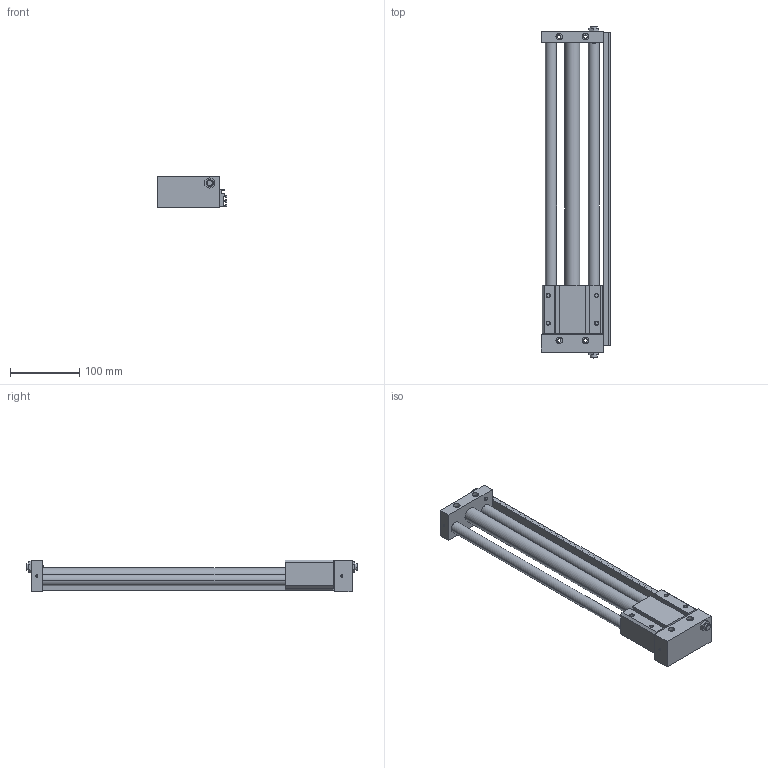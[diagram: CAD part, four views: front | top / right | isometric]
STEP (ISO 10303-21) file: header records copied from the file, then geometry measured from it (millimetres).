
FILE_DESCRIPTION((''),'2;1');
FILE_NAME('C:\Documents and Settings\Administrator\桌面\GYS\GYS20\GYSR20X350.stp','2012-03-06T20:21:47',('Administrator'),(''),'Autodesk Inventor 8','Autodesk Inventor 8','');
FILE_SCHEMA(('AUTOMOTIVE_DESIGN { 1 0 10303 214 1 1 1 1 }'));
Length unit declared in the file: millimetre
Products named in the file (3): GYSR20X350; GYS20X350; GYS20160X350
Assembly tree (2 placements, depth 2):
  GYSR20X350
    GYS20X350
    GYS20160X350
Bounding box: 100.5 x 481 x 46 mm (x, y, z)
Volume: 757793.5 mm3; surface area: 168805.4 mm2
Topology: 2 solids, 2 shells, 243 faces, 626 edges, 408 vertices
Faces by surface type: plane 133, cylinder 76, cone 28, bspline 6
Entity records: 7564 total; most frequent: CARTESIAN_POINT 1356, DIRECTION 1306, ORIENTED_EDGE 1252, EDGE_CURVE 626, AXIS2_PLACEMENT_3D 438, VECTOR 430, LINE 430, VERTEX_POINT 408
